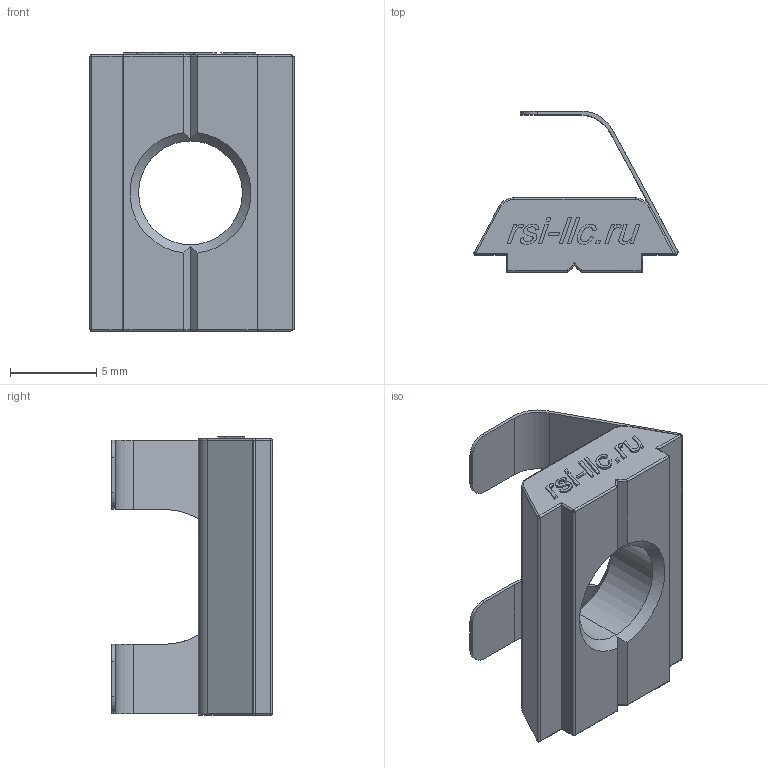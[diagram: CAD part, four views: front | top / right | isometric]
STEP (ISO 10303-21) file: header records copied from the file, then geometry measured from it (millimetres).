
FILE_DESCRIPTION (( 'STEP AP214' ), '1' );
FILE_NAME ('2ﾀ12.ﾀ31ﾀ.01.STEP', '2020-10-26T09:26:26', ( '' ), ( '' ), 'SwSTEP 2.0', 'SolidWorks 2018', '' );
FILE_SCHEMA (( 'AUTOMOTIVE_DESIGN' ));
Length unit declared in the file: millimetre
Products named in the file (1): 2ﾀ12.ﾀ31ﾀ.01
Bounding box: 11.8 x 9.3 x 16.1 mm (x, y, z)
Volume: 549.1 mm3; surface area: 748.3 mm2
Topology: 1 solids, 1 shells, 177 faces, 452 edges, 280 vertices
Faces by surface type: plane 91, cylinder 40, bspline 32, sphere 6, cone 4, torus 4
Entity records: 8024 total; most frequent: CARTESIAN_POINT 2948, ORIENTED_EDGE 892, DIRECTION 718, EDGE_CURVE 446, LINE 298, VECTOR 298, VERTEX_POINT 280, AXIS2_PLACEMENT_3D 210
